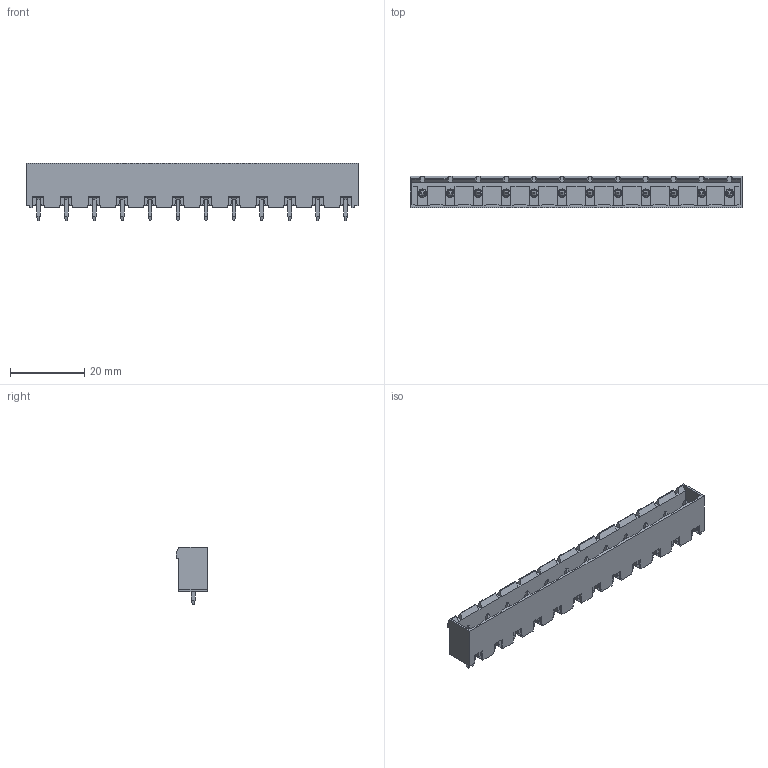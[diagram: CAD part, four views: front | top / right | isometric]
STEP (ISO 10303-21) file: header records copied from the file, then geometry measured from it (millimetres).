
FILE_DESCRIPTION((''),'2;1');
FILE_NAME('393720012','2015-01-07T',('me'),(''),'PRO/ENGINEER BY PARAMETRIC TECHNOLOGY CORPORATION, 2011490','PRO/ENGINEER BY PARAMETRIC TECHNOLOGY CORPORATION, 2011490','');
FILE_SCHEMA(('CONFIG_CONTROL_DESIGN'));
Length unit declared in the file: inch
Products named in the file (1): 393720012
Bounding box: 89.15 x 8.36 x 15.49 mm (x, y, z)
Volume: 2900.5 mm3; surface area: 6751.2 mm2
Topology: 1 solids, 1 shells, 728 faces, 2046 edges, 1332 vertices
Faces by surface type: plane 584, cylinder 96, cone 24, torus 24
Entity records: 23071 total; most frequent: CARTESIAN_POINT 4371, ORIENTED_EDGE 4020, DIRECTION 3600, EDGE_CURVE 2010, VECTOR 1710, LINE 1710, VERTEX_POINT 1284, AXIS2_PLACEMENT_3D 945
